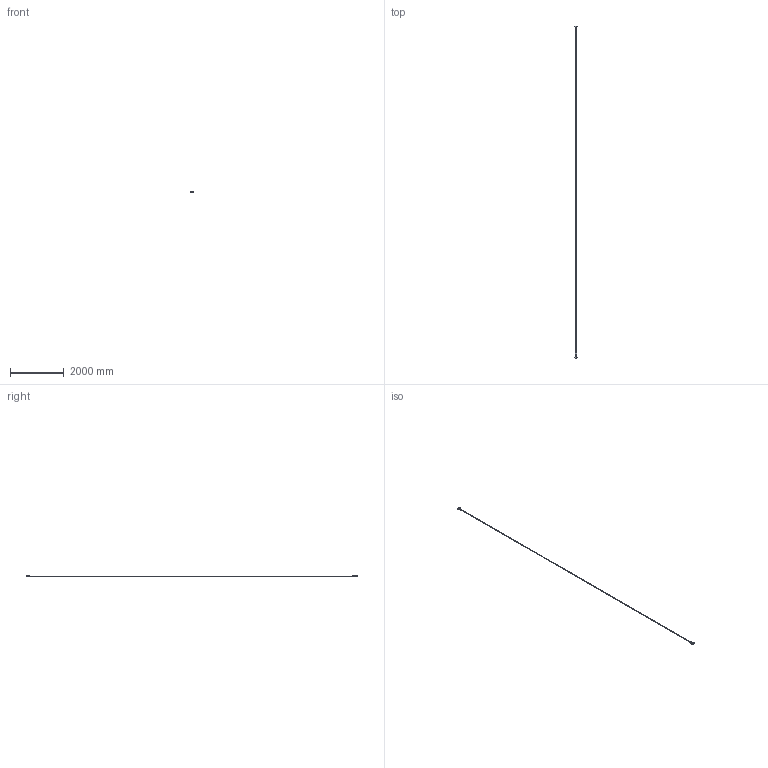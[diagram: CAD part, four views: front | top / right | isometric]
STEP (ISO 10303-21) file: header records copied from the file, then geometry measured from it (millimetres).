
FILE_DESCRIPTION(/* description */ (''),/* implementation_level */ '2;1');
FILE_NAME(/* name */ 'X:\PUBBLICA\X ALBERTO ZANARDI\FILE 3D X SITO\EU\INFINITO\1882 - INFINITO 12.stp',/* time_stamp */ '2020-02-26T12:15:07+01:00',/* author */ ('AC'),/* organization */ (''),/* preprocessor_version */ 'ST-DEVELOPER v18',/* originating_system */ 'Autodesk Inventor 2020',/* authorisation */ '');
FILE_SCHEMA (('AUTOMOTIVE_DESIGN { 1 0 10303 214 3 1 1 }'));
Length unit declared in the file: millimetre
Products named in the file (1): Parte5
Bounding box: 90 x 12313 x 53 mm (x, y, z)
Volume: 319707 mm3; surface area: 602311.1 mm2
Topology: 1 solids, 1 shells, 479 faces, 1249 edges, 758 vertices
Faces by surface type: plane 334, cylinder 143, cone 2
Full cylindrical faces by diameter (mm): 8 x10, 12 x2, 15 x1
Entity records: 15006 total; most frequent: CARTESIAN_POINT 2519, DIRECTION 2499, ORIENTED_EDGE 2482, EDGE_CURVE 1241, LINE 935, VECTOR 935, AXIS2_PLACEMENT_3D 782, VERTEX_POINT 746
